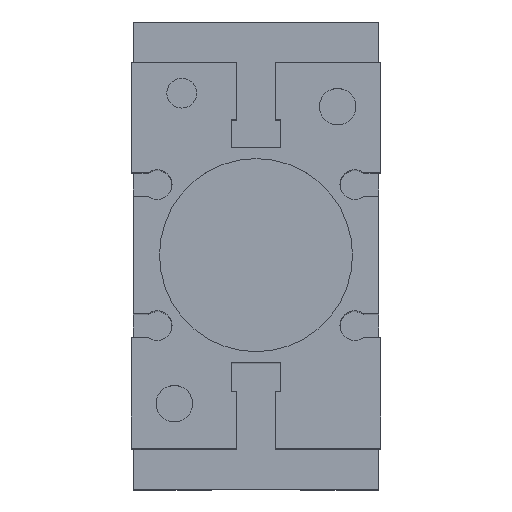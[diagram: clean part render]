
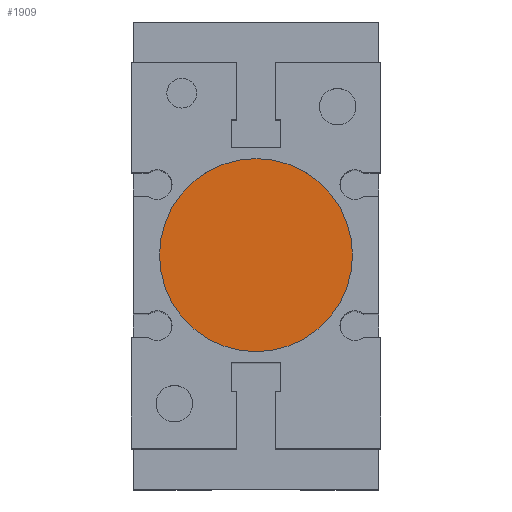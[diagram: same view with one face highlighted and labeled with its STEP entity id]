
A CAD part, top view. The second image highlights one B-rep face of the part: STEP entity #1909.
In plain terms, the highlighted planar face has unit normal (0, 0, 1).
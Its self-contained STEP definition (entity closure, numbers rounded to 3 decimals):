
#1878=CARTESIAN_POINT('',(13.0,0.,61.6));
#1879=VERTEX_POINT('',#1878);
#1880=CARTESIAN_POINT('',(0.0,0.0,61.6));
#1881=DIRECTION('',(0.0,0.0,1.0));
#1882=DIRECTION('',(-1.0,0.0,0.0));
#1883=AXIS2_PLACEMENT_3D('',#1880,#1881,#1882);
#1884=CIRCLE('',#1883,13.0);
#1885=EDGE_CURVE('',#1879,#1879,#1884,.T.);
#1901=CARTESIAN_POINT('',(0.0,0.0,61.6));
#1902=DIRECTION('',(0.0,0.0,-1.0));
#1903=DIRECTION('',(-1.0,0.0,0.0));
#1904=AXIS2_PLACEMENT_3D('',#1901,#1902,#1903);
#1905=PLANE('',#1904);
#1906=ORIENTED_EDGE('',*,*,#1885,.T.);
#1907=EDGE_LOOP('',(#1906));
#1908=FACE_OUTER_BOUND('',#1907,.T.);
#1909=ADVANCED_FACE('',(#1908),#1905,.F.);
